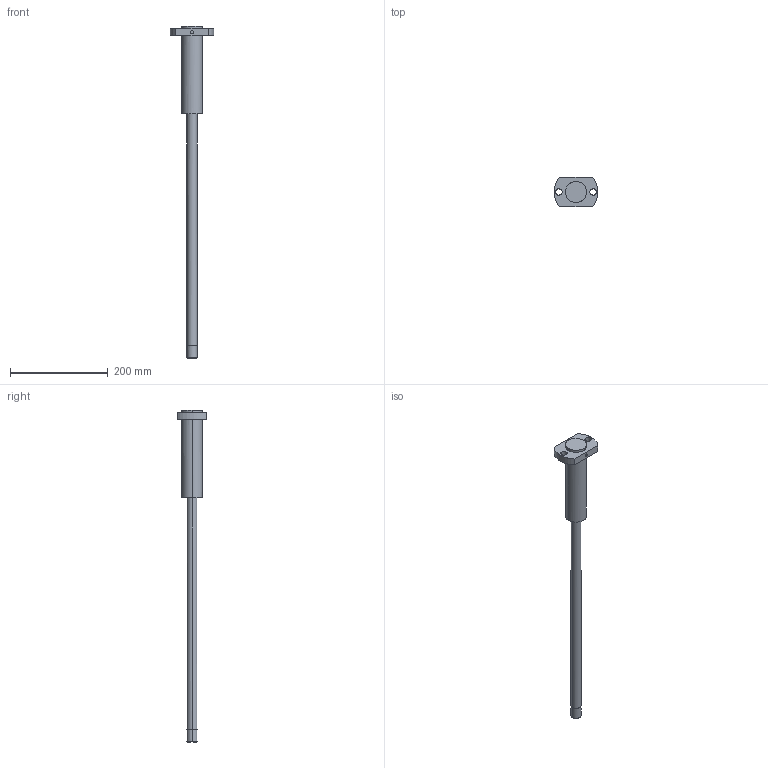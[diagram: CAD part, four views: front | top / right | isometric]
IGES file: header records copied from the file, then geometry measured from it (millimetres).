
Global section: file name: E:\UnigraphicsGraphicData\MISUMI_PRESS-PARTS\IGES\3d_papzu20-500-180-160-500_01719_r00.igs; native system: NX V5.0; preprocessor: UGS NX IGES V5.0; author: MISUMI; date: 20110105.162231; units: millimetre
Bounding box: 90 x 60 x 680 mm (x, y, z)
Surface area: 75346.9 mm2 (no closed solid volume)
Topology: 0 solids, 0 shells, 32 faces, 292 edges, 292 vertices
Faces by surface type: bspline 32
